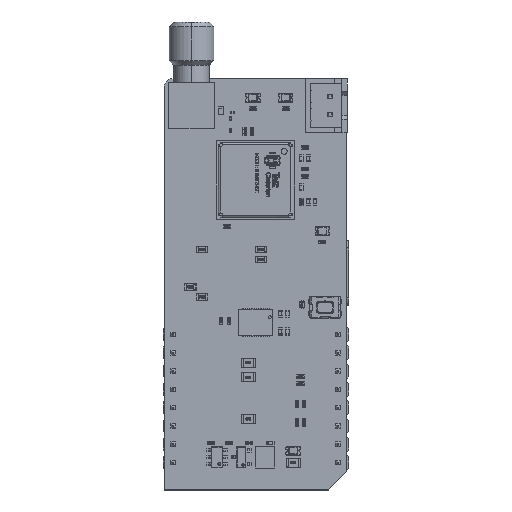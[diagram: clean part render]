
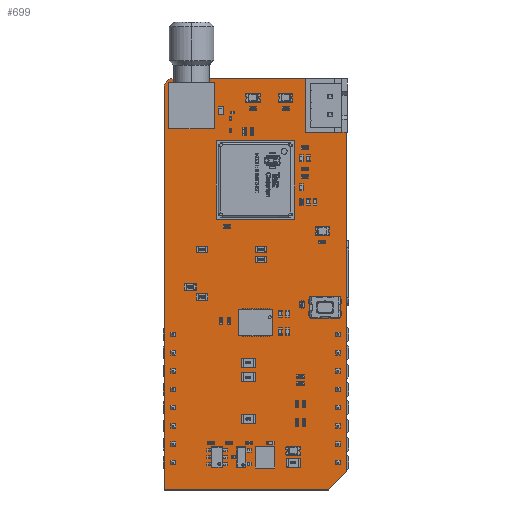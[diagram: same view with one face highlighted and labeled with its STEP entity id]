
A CAD part, top view. The second image highlights one B-rep face of the part: STEP entity #699.
In plain terms, the highlighted planar face has unit normal (0, 0, 1).
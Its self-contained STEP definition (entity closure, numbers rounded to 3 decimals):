
#504 = VERTEX_POINT('',#505);
#505 = CARTESIAN_POINT('',(-1.27,-3.81,1.65));
#511 = EDGE_CURVE('',#504,#512,#514,.T.);
#512 = VERTEX_POINT('',#513);
#513 = CARTESIAN_POINT('',(-1.27,52.065,1.65));
#514 = LINE('',#515,#516);
#515 = CARTESIAN_POINT('',(-1.27,-3.81,1.65));
#516 = VECTOR('',#517,1.);
#517 = DIRECTION('',(0.,1.,0.));
#542 = EDGE_CURVE('',#512,#543,#545,.T.);
#543 = VERTEX_POINT('',#544);
#544 = CARTESIAN_POINT('',(0.005,53.34,1.65));
#545 = CIRCLE('',#546,1.274);
#546 = AXIS2_PLACEMENT_3D('',#547,#548,#549);
#547 = CARTESIAN_POINT('',(0.004,52.066,1.65
    ));
#548 = DIRECTION('',(0.,0.,-1.));
#549 = DIRECTION('',(-1.,-0.001,-0.));
#575 = EDGE_CURVE('',#543,#576,#578,.T.);
#576 = VERTEX_POINT('',#577);
#577 = CARTESIAN_POINT('',(24.13,53.34,1.65));
#578 = LINE('',#579,#580);
#579 = CARTESIAN_POINT('',(0.005,53.34,1.65));
#580 = VECTOR('',#581,1.);
#581 = DIRECTION('',(1.,0.,0.));
#606 = EDGE_CURVE('',#576,#607,#609,.T.);
#607 = VERTEX_POINT('',#608);
#608 = CARTESIAN_POINT('',(24.13,-1.27,1.65));
#609 = LINE('',#610,#611);
#610 = CARTESIAN_POINT('',(24.13,53.34,1.65));
#611 = VECTOR('',#612,1.);
#612 = DIRECTION('',(0.,-1.,0.));
#637 = EDGE_CURVE('',#607,#638,#640,.T.);
#638 = VERTEX_POINT('',#639);
#639 = CARTESIAN_POINT('',(21.59,-3.81,1.65));
#640 = LINE('',#641,#642);
#641 = CARTESIAN_POINT('',(24.13,-1.27,1.65));
#642 = VECTOR('',#643,1.);
#643 = DIRECTION('',(-0.707,-0.707,0.));
#668 = EDGE_CURVE('',#638,#504,#669,.T.);
#669 = LINE('',#670,#671);
#670 = CARTESIAN_POINT('',(21.59,-3.81,1.65));
#671 = VECTOR('',#672,1.);
#672 = DIRECTION('',(-1.,0.,0.));
#699 = ADVANCED_FACE('',(#700),#708,.F.);
#700 = FACE_BOUND('',#701,.F.);
#701 = EDGE_LOOP('',(#702,#703,#704,#705,#706,#707));
#702 = ORIENTED_EDGE('',*,*,#511,.T.);
#703 = ORIENTED_EDGE('',*,*,#542,.T.);
#704 = ORIENTED_EDGE('',*,*,#575,.T.);
#705 = ORIENTED_EDGE('',*,*,#606,.T.);
#706 = ORIENTED_EDGE('',*,*,#637,.T.);
#707 = ORIENTED_EDGE('',*,*,#668,.T.);
#708 = PLANE('',#709);
#709 = AXIS2_PLACEMENT_3D('',#710,#711,#712);
#710 = CARTESIAN_POINT('',(11.351,24.933,1.65));
#711 = DIRECTION('',(-0.,-0.,-1.));
#712 = DIRECTION('',(-1.,0.,0.));
